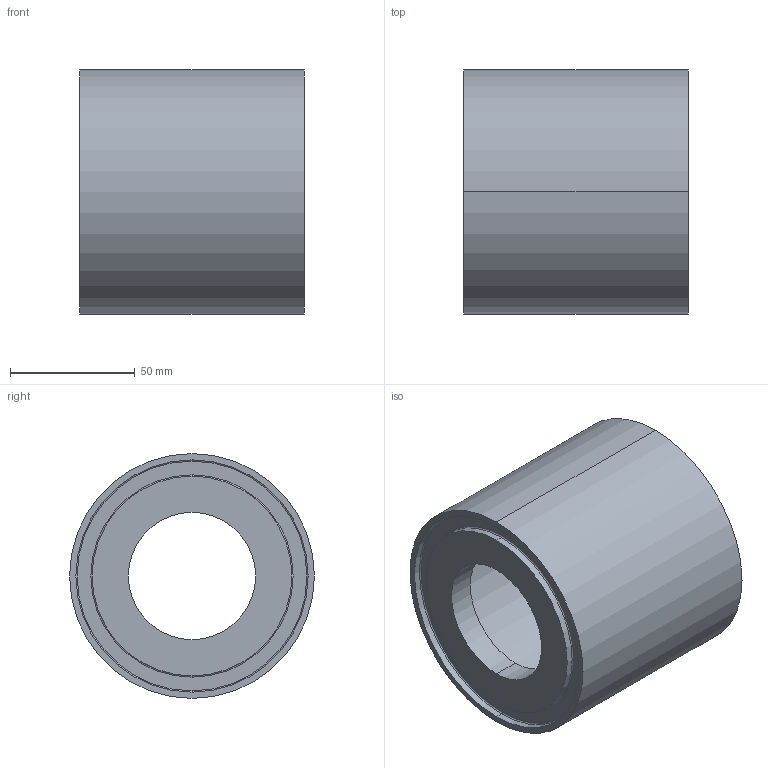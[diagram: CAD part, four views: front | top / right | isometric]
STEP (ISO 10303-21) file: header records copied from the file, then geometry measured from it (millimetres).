
FILE_DESCRIPTION (( 'STEP AP214' ), '1' );
FILE_NAME ('RVZ3139xD15A5A05500_DN 50_DIN-RR-Nut_PS40.STEP', '2009-11-10T13:37:52', ( 'Eckhard Grams' ), ( 'AWP Kälte Klima Armaturen GmbH' ), 'SwSTEP 2.0', 'SolidWorks 2002296', '' );
FILE_SCHEMA (( 'AUTOMOTIVE_DESIGN' ));
Length unit declared in the file: millimetre
Products named in the file (2): RVZ3139xD15A5A05500_DN 50_DIN-RR-Nut_PS40; Geh 31391K15-5034xx4_DN50_PS63_Geh 31391K15-5034554 RR-Nut
Assembly tree (1 placements, depth 2):
  RVZ3139xD15A5A05500_DN 50_DIN-RR-Nut_PS40
    Geh 31391K15-5034xx4_DN50_PS63_Geh 31391K15-5034554 RR-Nut
Bounding box: 90 x 98 x 98 mm (x, y, z)
Volume: 244187.9 mm3; surface area: 67558.8 mm2
Topology: 1 solids, 1 shells, 51 faces, 102 edges, 62 vertices
Faces by surface type: cylinder 26, torus 12, plane 11, cone 2
Entity records: 1427 total; most frequent: DIRECTION 286, CARTESIAN_POINT 219, ORIENTED_EDGE 204, AXIS2_PLACEMENT_3D 129, EDGE_CURVE 102, CIRCLE 74, VERTEX_POINT 62, EDGE_LOOP 62
